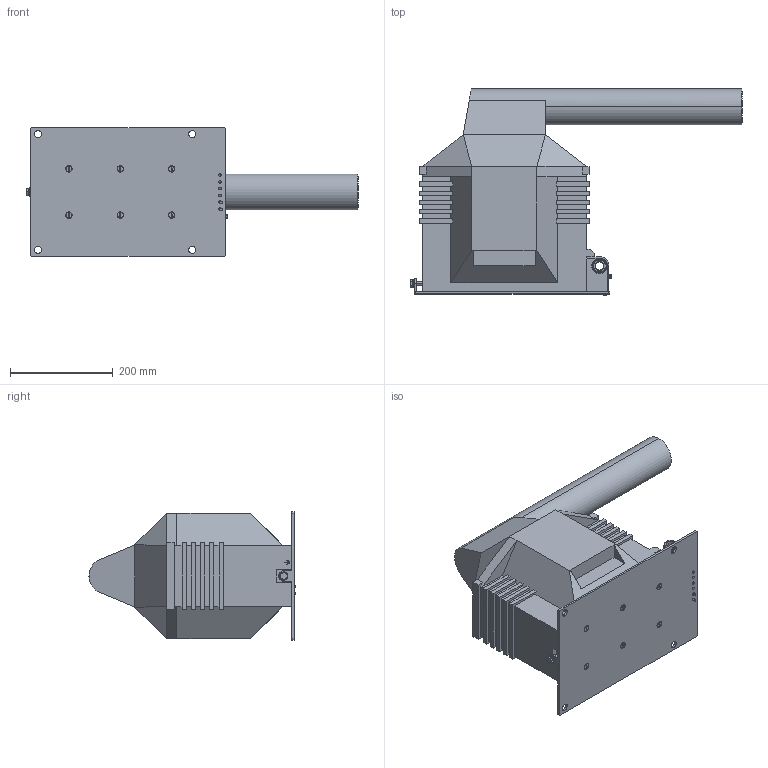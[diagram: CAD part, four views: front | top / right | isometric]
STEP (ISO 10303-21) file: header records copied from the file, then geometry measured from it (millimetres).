
FILE_DESCRIPTION (( 'STEP AP203' ), '1' );
FILE_NAME ('VTS_36_P_21.STEP', '2014-10-14T07:17:53', ( '' ), ( '' ), 'SwSTEP 2.0', 'SolidWorks 2014', '' );
FILE_SCHEMA (( 'CONFIG_CONTROL_DESIGN' ));
Length unit declared in the file: millimetre
Products named in the file (1): VTS_36_P_21
Bounding box: 646.1 x 400.9 x 250 mm (x, y, z)
Volume: 18700060.7 mm3; surface area: 846307.7 mm2
Topology: 20 solids, 22 shells, 1570 faces, 4001 edges, 2522 vertices
Faces by surface type: plane 894, cylinder 443, bspline 82, cone 59, torus 46, sphere 46
Entity records: 55253 total; most frequent: CARTESIAN_POINT 17473, ORIENTED_EDGE 7866, DIRECTION 7734, EDGE_CURVE 3933, AXIS2_PLACEMENT_3D 2630, VERTEX_POINT 2506, VECTOR 2474, LINE 2474
